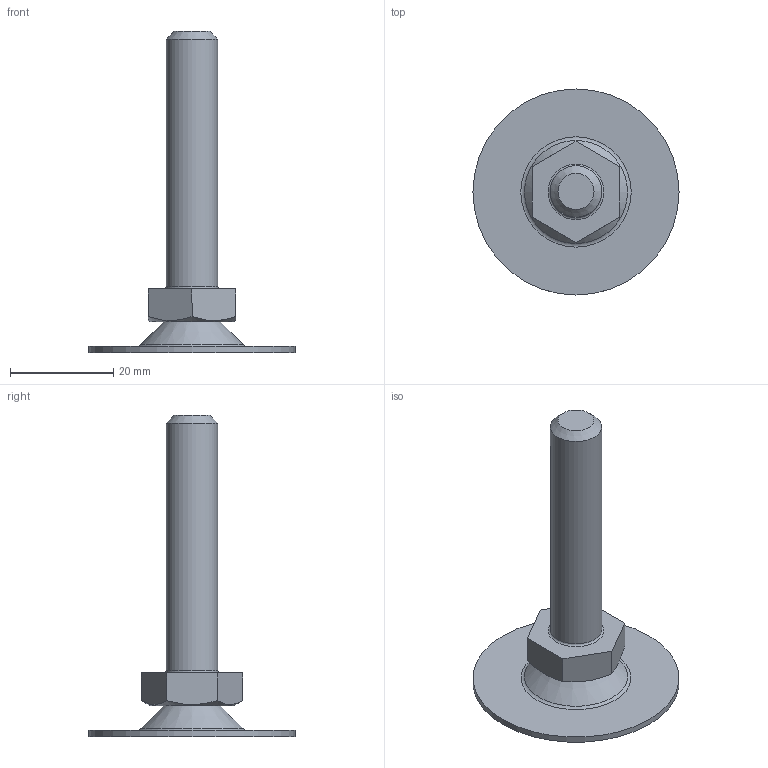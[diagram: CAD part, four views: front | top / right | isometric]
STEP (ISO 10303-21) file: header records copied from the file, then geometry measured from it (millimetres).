
FILE_DESCRIPTION(('STEP AP203'), '1');
FILE_NAME('A00050.1041016', '', ('UNSPECIFIED'), ('UNSPECIFIED'), 'C3D Converter', 'C3D Toolkit', '');
FILE_SCHEMA(('CONFIG_CONTROL_DESIGN'));
Length unit declared in the file: millimetre
Products named in the file (4): A00050.1041050; A00050.1040
Assembly tree (3 placements, depth 2):
  A00050.1041050
    A00050.1040
    (unnamed)
    (unnamed)
Bounding box: 40 x 40 x 62.38 mm (x, y, z)
Volume: 7098.5 mm3; surface area: 5670.7 mm2
Topology: 3 solids, 3 shells, 58 faces, 130 edges, 82 vertices
Faces by surface type: plane 28, torus 8, bspline 8, cone 7, cylinder 6, sphere 1
Full cylindrical faces by diameter (mm): 3.3 x1, 4 x1, 4.5 x1, 8 x1, 10 x1, 40 x1
Entity records: 2171 total; most frequent: CARTESIAN_POINT 784, DIRECTION 242, ORIENTED_EDGE 214, EDGE_CURVE 107, AXIS2_PLACEMENT_3D 95, EDGE_LOOP 86, VERTEX_POINT 81, ADVANCED_FACE 58
